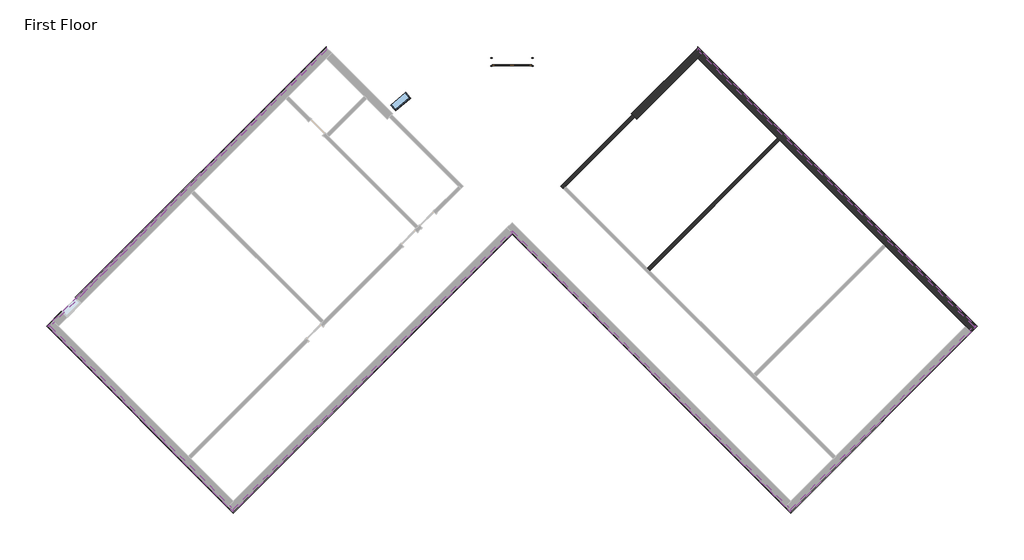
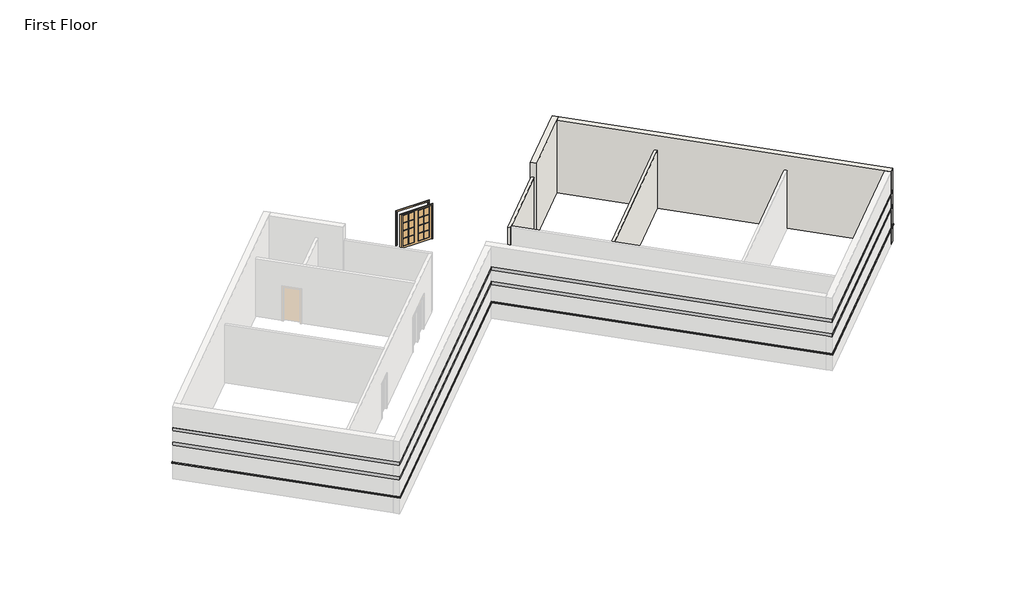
# One storey, part 2 of 2: 18 proxies, 4 walls, 1 door, 1 window.
"""IFC4 building model written with IfcOpenShell, lengths in millimetres."""

from ifc_helpers import new_model, si_unit, frame, origin, origin_with_axes, place, context, project, spatial, polyline, circle_curve, outline, extrude, faceted_brep, transform, mapped, element, save
from ifc_brep_helpers import plane_surface, cylinder_surface, revolved_surface, advanced_brep
from components import door_0a477ef8, window_15c49d37

model = new_model("IFC4")

# Units and contexts
model_context = context("Model", 3, world=origin())
ifc_project = project(units=[si_unit("LENGTHUNIT", "METRE", prefix="MILLI")], contexts=[model_context])

# Site, building, storey
site = spatial("IfcSite", under=ifc_project)
building = spatial("IfcBuilding", under=site)
storey = spatial("IfcBuildingStorey", under=building, Name="First Floor", Elevation=0.0)

# Proxies
placement = place(None, origin())
element("IfcBuildingElementProxy", 1, Name="Wall Sweeps", at=placement, inside=storey, context=model_context, shape_type="Brep", body=[
    faceted_brep([(5753.0175119, 11443.3655905, 1085.85), (5753.0175119, 11573.5793042, 1085.85), (5753.0175119, 11622.9707129, 1041.4), (5753.0175119, 11622.9707129, 1016.0), (5753.0175119, 11443.3655905, 1016.0), (18554.3726125, -1357.9895101, 1085.85), (18554.3726125, -1357.9895101, 1016.0), (18733.9777349, -1357.9895101, 1016.0), (18733.9777349, -1357.9895101, 1041.4), (18684.5863263, -1357.9895101, 1085.85), (5937.1127624, 11259.27034, 1085.85), (5937.1127624, 11259.27034, 1016.0)], [[[0, 1, 2, 3, 4]], [[5, 6, 7, 8, 9]], [[1, 0, 10, 5, 9]], [[2, 1, 9, 8]], [[3, 2, 8, 7]], [[4, 3, 7, 6, 11]], [[0, 4, 11, 6, 5, 10]]]),
])
element("IfcBuildingElementProxy", 2, Name="Wall Sweeps", at=placement, inside=storey, context=model_context, shape_type="Brep", body=[
    faceted_brep([(5753.0175119, 11573.5793042, 2336.8), (5753.0175119, 11573.5793042, 2133.6), (5753.0175119, 11443.3655905, 2133.6), (5753.0175119, 11443.3655905, 2336.8), (18684.5863263, -1357.9895101, 2336.8), (18554.3726125, -1357.9895101, 2336.8), (18554.3726125, -1357.9895101, 2133.6), (18684.5863263, -1357.9895101, 2133.6), (6002.2196193, 11324.3771969, 2336.8), (6002.2196193, 11324.3771969, 2133.6), (5937.1127624, 11259.27034, 2133.6), (5937.1127624, 11259.27034, 2336.8)], [[[0, 1, 2, 3]], [[4, 5, 6, 7]], [[1, 0, 8, 4, 7, 9]], [[2, 1, 9, 7, 6, 10]], [[3, 2, 10, 6, 5, 11]], [[0, 3, 11, 5, 4, 8]]]),
])
element("IfcBuildingElementProxy", 3, Name="Wall Sweeps", at=placement, inside=storey, context=model_context, shape_type="Brep", body=[
    faceted_brep([(5753.0175119, 11573.5793042, 3251.2), (5753.0175119, 11573.5793042, 3048.0), (5753.0175119, 11443.3655905, 3048.0), (5753.0175119, 11443.3655905, 3251.2), (18684.5863263, -1357.9895101, 3251.2), (18554.3726125, -1357.9895101, 3251.2), (18554.3726125, -1357.9895101, 3048.0), (18684.5863263, -1357.9895101, 3048.0), (6002.2196193, 11324.3771969, 3251.2), (6002.2196193, 11324.3771969, 3048.0), (5937.1127624, 11259.27034, 3048.0), (5937.1127624, 11259.27034, 3251.2)], [[[0, 1, 2, 3]], [[4, 5, 6, 7]], [[1, 0, 8, 4, 7, 9]], [[2, 1, 9, 7, 6, 10]], [[3, 2, 10, 6, 5, 11]], [[0, 3, 11, 5, 4, 8]]]),
])
element("IfcBuildingElementProxy", 4, Name="Wall Sweeps", at=placement, inside=storey, context=model_context, shape_type="Brep", body=[
    faceted_brep([(18554.3726125, -1357.9895101, 1085.85), (18684.5863263, -1357.9895101, 1085.85), (18733.9777349, -1357.9895101, 1041.4), (18733.9777349, -1357.9895101, 1016.0), (18554.3726125, -1357.9895101, 1016.0), (10063.54045, -9848.8216726, 1085.85), (10063.54045, -9848.8216726, 1016.0), (10063.54045, -10028.426795, 1016.0), (10063.54045, -10028.426795, 1041.4), (10063.54045, -9979.0353863, 1085.85), (18370.277362, -1542.0847606, 1085.85), (18370.277362, -1542.0847606, 1016.0)], [[[0, 1, 2, 3, 4]], [[5, 6, 7, 8, 9]], [[1, 0, 10, 5, 9]], [[2, 1, 9, 8]], [[3, 2, 8, 7]], [[4, 3, 7, 6, 11]], [[0, 4, 11, 6, 5, 10]]]),
])
element("IfcBuildingElementProxy", 5, Name="Wall Sweeps", at=placement, inside=storey, context=model_context, shape_type="Brep", body=[
    faceted_brep([(18684.5863263, -1357.9895101, 2336.8), (18684.5863263, -1357.9895101, 2133.6), (18554.3726125, -1357.9895101, 2133.6), (18554.3726125, -1357.9895101, 2336.8), (10063.54045, -9979.0353863, 2336.8), (10063.54045, -9848.8216726, 2336.8), (10063.54045, -9848.8216726, 2133.6), (10063.54045, -9979.0353863, 2133.6), (18435.3842189, -1607.1916175, 2336.8), (18435.3842189, -1607.1916175, 2133.6), (18370.277362, -1542.0847606, 2133.6), (18370.277362, -1542.0847606, 2336.8)], [[[0, 1, 2, 3]], [[4, 5, 6, 7]], [[1, 0, 8, 4, 7, 9]], [[2, 1, 9, 7, 6, 10]], [[3, 2, 10, 6, 5, 11]], [[0, 3, 11, 5, 4, 8]]]),
])
element("IfcBuildingElementProxy", 6, Name="Wall Sweeps", at=placement, inside=storey, context=model_context, shape_type="Brep", body=[
    faceted_brep([(18684.5863263, -1357.9895101, 3251.2), (18684.5863263, -1357.9895101, 3048.0), (18554.3726125, -1357.9895101, 3048.0), (18554.3726125, -1357.9895101, 3251.2), (10063.54045, -9979.0353863, 3251.2), (10063.54045, -9848.8216726, 3251.2), (10063.54045, -9848.8216726, 3048.0), (10063.54045, -9979.0353863, 3048.0), (18435.3842189, -1607.1916175, 3251.2), (18435.3842189, -1607.1916175, 3048.0), (18370.277362, -1542.0847606, 3048.0), (18370.277362, -1542.0847606, 3251.2)], [[[0, 1, 2, 3]], [[4, 5, 6, 7]], [[1, 0, 8, 4, 7, 9]], [[2, 1, 9, 7, 6, 10]], [[3, 2, 10, 6, 5, 11]], [[0, 3, 11, 5, 4, 8]]]),
])
element("IfcBuildingElementProxy", 7, Name="Wall Sweeps", at=placement, inside=storey, context=model_context, shape_type="Brep", body=[
    faceted_brep([(10063.54045, -9848.8216726, 1085.85), (10063.54045, -9979.0353863, 1085.85), (10063.54045, -10028.426795, 1041.4), (10063.54045, -10028.426795, 1016.0), (10063.54045, -9848.8216726, 1016.0), (-2868.0283643, 3082.7471418, 1085.85), (-2868.0283643, 3082.7471418, 1016.0), (-2868.0283643, 2903.1420194, 1016.0), (-2868.0283643, 2903.1420194, 1041.4), (-2868.0283643, 2952.533428, 1085.85), (9879.4451996, -9664.7264221, 1085.85), (9879.4451996, -9664.7264221, 1016.0)], [[[0, 1, 2, 3, 4]], [[5, 6, 7, 8, 9]], [[1, 0, 10, 5, 9]], [[2, 1, 9, 8]], [[3, 2, 8, 7]], [[4, 3, 7, 6, 11]], [[0, 4, 11, 6, 5, 10]]]),
])
element("IfcBuildingElementProxy", 8, Name="Wall Sweeps", at=placement, inside=storey, context=model_context, shape_type="Brep", body=[
    faceted_brep([(10063.54045, -9979.0353863, 2336.8), (10063.54045, -9979.0353863, 2133.6), (10063.54045, -9848.8216726, 2133.6), (10063.54045, -9848.8216726, 2336.8), (-2868.0283643, 2952.533428, 2336.8), (-2868.0283643, 3082.7471418, 2336.8), (-2868.0283643, 3082.7471418, 2133.6), (-2868.0283643, 2952.533428, 2133.6), (9814.3383427, -9729.833279, 2336.8), (9814.3383427, -9729.833279, 2133.6), (9879.4451996, -9664.7264221, 2133.6), (9879.4451996, -9664.7264221, 2336.8)], [[[0, 1, 2, 3]], [[4, 5, 6, 7]], [[1, 0, 8, 4, 7, 9]], [[2, 1, 9, 7, 6, 10]], [[3, 2, 10, 6, 5, 11]], [[0, 3, 11, 5, 4, 8]]]),
])
element("IfcBuildingElementProxy", 9, Name="Wall Sweeps", at=placement, inside=storey, context=model_context, shape_type="Brep", body=[
    faceted_brep([(10063.54045, -9979.0353863, 3251.2), (10063.54045, -9979.0353863, 3048.0), (10063.54045, -9848.8216726, 3048.0), (10063.54045, -9848.8216726, 3251.2), (-2868.0283643, 2952.533428, 3251.2), (-2868.0283643, 3082.7471418, 3251.2), (-2868.0283643, 3082.7471418, 3048.0), (-2868.0283643, 2952.533428, 3048.0), (9814.3383427, -9729.833279, 3251.2), (9814.3383427, -9729.833279, 3048.0), (9879.4451996, -9664.7264221, 3048.0), (9879.4451996, -9664.7264221, 3251.2)], [[[0, 1, 2, 3]], [[4, 5, 6, 7]], [[1, 0, 8, 4, 7, 9]], [[2, 1, 9, 7, 6, 10]], [[3, 2, 10, 6, 5, 11]], [[0, 3, 11, 5, 4, 8]]]),
])
element("IfcBuildingElementProxy", 10, Name="Wall Sweeps", at=placement, inside=storey, context=model_context, shape_type="Brep", body=[
    faceted_brep([(-2868.0283643, 3082.7471418, 1085.85), (-2868.0283643, 2952.533428, 1085.85), (-2868.0283643, 2903.1420194, 1041.4), (-2868.0283643, 2903.1420194, 1016.0), (-2868.0283643, 3082.7471418, 1016.0), (-15799.5971786, -9848.8216726, 1085.85), (-15799.5971786, -9848.8216726, 1016.0), (-15799.5971786, -10028.426795, 1016.0), (-15799.5971786, -10028.426795, 1041.4), (-15799.5971786, -9979.0353863, 1085.85), (-2933.1352212, 3017.6402849, 1085.85), (-2933.1352212, 3017.6402849, 1016.0)], [[[0, 1, 2, 3, 4]], [[5, 6, 7, 8, 9]], [[1, 0, 10, 5, 9]], [[2, 1, 9, 8]], [[3, 2, 8, 7]], [[4, 3, 7, 6, 11]], [[0, 4, 11, 6, 5, 10]]]),
])
element("IfcBuildingElementProxy", 11, Name="Wall Sweeps", at=placement, inside=storey, context=model_context, shape_type="Brep", body=[
    faceted_brep([(-2868.0283643, 2952.533428, 2336.8), (-2868.0283643, 2952.533428, 2133.6), (-2868.0283643, 3082.7471418, 2133.6), (-2868.0283643, 3082.7471418, 2336.8), (-15799.5971786, -9979.0353863, 2336.8), (-15799.5971786, -9848.8216726, 2336.8), (-15799.5971786, -9848.8216726, 2133.6), (-15799.5971786, -9979.0353863, 2133.6), (-2933.1352212, 3017.6402849, 2133.6), (-2933.1352212, 3017.6402849, 2336.8)], [[[0, 1, 2, 3]], [[4, 5, 6, 7]], [[1, 0, 4, 7]], [[2, 1, 7, 6, 8]], [[3, 2, 8, 6, 5, 9]], [[0, 3, 9, 5, 4]]]),
])
element("IfcBuildingElementProxy", 12, Name="Wall Sweeps", at=placement, inside=storey, context=model_context, shape_type="Brep", body=[
    faceted_brep([(-2868.0283643, 2952.533428, 3251.2), (-2868.0283643, 2952.533428, 3048.0), (-2868.0283643, 3082.7471418, 3048.0), (-2868.0283643, 3082.7471418, 3251.2), (-15799.5971786, -9979.0353863, 3251.2), (-15799.5971786, -9848.8216726, 3251.2), (-15799.5971786, -9848.8216726, 3048.0), (-15799.5971786, -9979.0353863, 3048.0), (-2933.1352212, 3017.6402849, 3048.0), (-2933.1352212, 3017.6402849, 3251.2)], [[[0, 1, 2, 3]], [[4, 5, 6, 7]], [[1, 0, 4, 7]], [[2, 1, 7, 6, 8]], [[3, 2, 8, 6, 5, 9]], [[0, 3, 9, 5, 4]]]),
])
element("IfcBuildingElementProxy", 13, Name="Wall Sweeps", at=placement, inside=storey, context=model_context, shape_type="Brep", body=[
    faceted_brep([(-24290.4293411, -1357.9895101, 1085.85), (-24420.6430549, -1357.9895101, 1085.85), (-24470.0344635, -1357.9895101, 1041.4), (-24470.0344635, -1357.9895101, 1016.0), (-24290.4293411, -1357.9895101, 1016.0), (-23692.119777, -759.679946, 1085.85), (-23692.119777, -759.679946, 1016.0), (-23757.2266339, -694.5730891, 1016.0), (-23781.9223383, -669.8773848, 1016.0), (-23781.9223383, -669.8773848, 1041.4), (-23757.2266339, -694.5730891, 1085.85), (-24106.3340906, -1173.8942596, 1085.85), (-24106.3340906, -1173.8942596, 1016.0)], [[[0, 1, 2, 3, 4]], [[5, 6, 7, 8, 9, 10]], [[1, 0, 11, 5, 10]], [[2, 1, 10, 9]], [[3, 2, 9, 8]], [[4, 3, 8, 7, 6, 12]], [[0, 4, 12, 6, 5, 11]]]),
    faceted_brep([(-23045.5413363, -113.1015053, 1085.85), (-23110.6481932, -47.9946484, 1085.85), (-23135.3438975, -23.2989441, 1041.4), (-23135.3438975, -23.2989441, 1016.0), (-23110.6481932, -47.9946484, 1016.0), (-23045.5413363, -113.1015053, 1016.0), (-11489.0742405, 11443.3655905, 1085.85), (-11489.0742405, 11443.3655905, 1016.0), (-11489.0742405, 11622.9707129, 1016.0), (-11489.0742405, 11622.9707129, 1041.4), (-11489.0742405, 11573.5793042, 1085.85)], [[[0, 1, 2, 3, 4, 5]], [[6, 7, 8, 9, 10]], [[1, 0, 6, 10]], [[2, 1, 10, 9]], [[3, 2, 9, 8]], [[5, 4, 3, 8, 7]], [[0, 5, 7, 6]]]),
])
element("IfcBuildingElementProxy", 14, Name="Wall Sweeps", at=placement, inside=storey, context=model_context, shape_type="Brep", body=[
    faceted_brep([(-24420.6430549, -1357.9895101, 2336.8), (-24420.6430549, -1357.9895101, 2133.6), (-24290.4293411, -1357.9895101, 2133.6), (-24290.4293411, -1357.9895101, 2336.8), (-23757.2266339, -694.5730891, 2336.8), (-23692.119777, -759.679946, 2336.8), (-23692.119777, -759.679946, 2133.6), (-23757.2266339, -694.5730891, 2133.6), (-24171.4409475, -1108.7874027, 2336.8), (-24171.4409475, -1108.7874027, 2133.6), (-24106.3340906, -1173.8942596, 2133.6), (-24106.3340906, -1173.8942596, 2336.8)], [[[0, 1, 2, 3]], [[4, 5, 6, 7]], [[1, 0, 8, 4, 7, 9]], [[2, 1, 9, 7, 6, 10]], [[3, 2, 10, 6, 5, 11]], [[0, 3, 11, 5, 4, 8]]]),
    faceted_brep([(-23110.6481932, -47.9946484, 2336.8), (-23110.6481932, -47.9946484, 2133.6), (-23045.5413363, -113.1015053, 2133.6), (-23045.5413363, -113.1015053, 2336.8), (-11489.0742405, 11573.5793042, 2336.8), (-11489.0742405, 11443.3655905, 2336.8), (-11489.0742405, 11443.3655905, 2133.6), (-11489.0742405, 11573.5793042, 2133.6)], [[[0, 1, 2, 3]], [[4, 5, 6, 7]], [[1, 0, 4, 7]], [[2, 1, 7, 6]], [[3, 2, 6, 5]], [[0, 3, 5, 4]]]),
])
element("IfcBuildingElementProxy", 15, Name="Wall Sweeps", at=placement, inside=storey, context=model_context, shape_type="Brep", body=[
    faceted_brep([(-24420.6430549, -1357.9895101, 3251.2), (-24420.6430549, -1357.9895101, 3048.0), (-24290.4293411, -1357.9895101, 3048.0), (-24290.4293411, -1357.9895101, 3251.2), (-11489.0742405, 11573.5793042, 3251.2), (-11489.0742405, 11443.3655905, 3251.2), (-11489.0742405, 11443.3655905, 3048.0), (-11489.0742405, 11573.5793042, 3048.0), (-24171.4409475, -1108.7874027, 3251.2), (-24171.4409475, -1108.7874027, 3048.0), (-24106.3340906, -1173.8942596, 3048.0), (-24106.3340906, -1173.8942596, 3251.2)], [[[0, 1, 2, 3]], [[4, 5, 6, 7]], [[1, 0, 8, 4, 7, 9]], [[2, 1, 9, 7, 6, 10]], [[3, 2, 10, 6, 5, 11]], [[0, 3, 11, 5, 4, 8]]]),
])
element("IfcBuildingElementProxy", 16, Name="Wall Sweeps", at=placement, inside=storey, context=model_context, shape_type="Brep", body=[
    faceted_brep([(-15799.5971786, -9848.8216726, 1085.85), (-15799.5971786, -9979.0353863, 1085.85), (-15799.5971786, -10028.426795, 1041.4), (-15799.5971786, -10028.426795, 1016.0), (-15799.5971786, -9848.8216726, 1016.0), (-24290.4293411, -1357.9895101, 1085.85), (-24290.4293411, -1357.9895101, 1016.0), (-24470.0344635, -1357.9895101, 1016.0), (-24470.0344635, -1357.9895101, 1041.4), (-24420.6430549, -1357.9895101, 1085.85), (-15983.6924291, -9664.7264221, 1085.85), (-15983.6924291, -9664.7264221, 1016.0)], [[[0, 1, 2, 3, 4]], [[5, 6, 7, 8, 9]], [[1, 0, 10, 5, 9]], [[2, 1, 9, 8]], [[3, 2, 8, 7]], [[4, 3, 7, 6, 11]], [[0, 4, 11, 6, 5, 10]]]),
])
element("IfcBuildingElementProxy", 17, Name="Wall Sweeps", at=placement, inside=storey, context=model_context, shape_type="Brep", body=[
    faceted_brep([(-15799.5971786, -9979.0353863, 2336.8), (-15799.5971786, -9979.0353863, 2133.6), (-15799.5971786, -9848.8216726, 2133.6), (-15799.5971786, -9848.8216726, 2336.8), (-24420.6430549, -1357.9895101, 2336.8), (-24290.4293411, -1357.9895101, 2336.8), (-24290.4293411, -1357.9895101, 2133.6), (-24420.6430549, -1357.9895101, 2133.6), (-16048.799286, -9729.833279, 2336.8), (-16048.799286, -9729.833279, 2133.6), (-15983.6924291, -9664.7264221, 2133.6), (-15983.6924291, -9664.7264221, 2336.8)], [[[0, 1, 2, 3]], [[4, 5, 6, 7]], [[1, 0, 8, 4, 7, 9]], [[2, 1, 9, 7, 6, 10]], [[3, 2, 10, 6, 5, 11]], [[0, 3, 11, 5, 4, 8]]]),
])
element("IfcBuildingElementProxy", 18, Name="Wall Sweeps", at=placement, inside=storey, context=model_context, shape_type="Brep", body=[
    faceted_brep([(-15799.5971786, -9979.0353863, 3251.2), (-15799.5971786, -9979.0353863, 3048.0), (-15799.5971786, -9848.8216726, 3048.0), (-15799.5971786, -9848.8216726, 3251.2), (-24420.6430549, -1357.9895101, 3251.2), (-24290.4293411, -1357.9895101, 3251.2), (-24290.4293411, -1357.9895101, 3048.0), (-24420.6430549, -1357.9895101, 3048.0), (-16048.799286, -9729.833279, 3251.2), (-16048.799286, -9729.833279, 3048.0), (-15983.6924291, -9664.7264221, 3048.0), (-15983.6924291, -9664.7264221, 3251.2)], [[[0, 1, 2, 3]], [[4, 5, 6, 7]], [[1, 0, 8, 4, 7, 9]], [[2, 1, 9, 7, 6, 10]], [[3, 2, 10, 6, 5, 11]], [[0, 3, 11, 5, 4, 8]]]),
])

# Door
door_shape = door_0a477ef8(model_context)
element("IfcDoor", 19, ObjectType="Double-Glass 2 : 72\" x 84\"", at=placement, inside=storey, context=model_context, shape_type="MappedRepresentation", body=[
    mapped(door_shape, transform((-2868.7603243, 10905.5717204, 0.0), x_axis=(-0.9999999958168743, -9.146721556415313e-05, 0.0), y_axis=(9.146721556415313e-05, -0.9999999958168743, 0.0), z_axis=(0.0, 0.0, 1.0))),
])

# Walls
element("IfcWall", 20, ObjectType="Exterior - Split Face and CMU on Mtl. Stud", at=placement, inside=storey, context=model_context, shape_type="AdvancedBrep", body=[
    advanced_brep(
    [(2921.9555443, 8244.1131219, 0.0), (5753.0175119, 11075.1750895, 0.0), (6002.2196193, 11324.3771969, 0.0), (6002.2196193, 11324.3771969, 1016.0), (5937.1127624, 11259.27034, 1016.0), (5937.1127624, 11259.27034, 1085.85), (6002.2196193, 11324.3771969, 1085.85), (6002.2196193, 11324.3771969, 2133.6), (5937.1127624, 11259.27034, 2133.6), (5937.1127624, 11259.27034, 2336.8), (6002.2196193, 11324.3771969, 2336.8), (6002.2196193, 11324.3771969, 3048.0), (5937.1127624, 11259.27034, 3048.0), (5937.1127624, 11259.27034, 3251.2), (6002.2196193, 11324.3771969, 3251.2), (6002.2196193, 11324.3771969, 4572.0), (5753.0175119, 11075.1750895, 4572.0), (2921.9555443, 8244.1131219, 4572.0), (2677.2250436, 8497.7868359, 4572.0), (2926.4294954, 8746.9912878, 4572.0), (5753.0175119, 11573.5793042, 4572.0), (5753.0175119, 11573.5793042, 3251.2), (2926.4294954, 8746.9912878, 3251.2), (2861.3220456, 8681.8838379, 3251.2), (2861.3220456, 8681.8838379, 3048.0), (2926.4294954, 8746.9912878, 3048.0), (5753.0175119, 11573.5793042, 3048.0), (5753.0175119, 11573.5793042, 2336.8), (2926.4294954, 8746.9912878, 2336.8), (2861.3220456, 8681.8838379, 2336.8), (2861.3220456, 8681.8838379, 2133.6), (2926.4294954, 8746.9912878, 2133.6), (5753.0175119, 11573.5793042, 2133.6), (5753.0175119, 11573.5793042, 1085.85), (2926.4294954, 8746.9912878, 1085.85), (2861.3220456, 8681.8838379, 1085.85), (2861.3220456, 8681.8838379, 1016.0), (2926.4294954, 8746.9912878, 1016.0), (5753.0175119, 11573.5793042, 1016.0), (5753.0175119, 11573.5793042, 0.0), (2926.4294954, 8746.9912878, 0.0), (2677.2250436, 8497.7868359, 0.0), (5818.1243688, 11508.4724474, 0.0), (2712.9544089, 8462.1452813, 0.0), (2742.2400511, 8432.5881297, 0.0), (2821.6568654, 8350.8358404, 0.0), (5753.0175119, 11443.3655905, 1085.85), (2926.3399919, 8616.6880705, 1085.85), (2926.3399919, 8616.6880705, 1016.0), (5753.0175119, 11443.3655905, 1016.0), (2926.3399919, 8616.6880705, 2133.6), (5753.0175119, 11443.3655905, 2133.6), (2926.3399919, 8616.6880705, 2336.8), (5753.0175119, 11443.3655905, 2336.8), (2926.3399919, 8616.6880705, 3048.0), (5753.0175119, 11443.3655905, 3048.0), (2926.3399919, 8616.6880705, 3251.2), (5753.0175119, 11443.3655905, 3251.2)],
    [
        (0, 1),
        (1, 2),
        (2, 3),
        (3, 4),
        (4, 5),
        (5, 6),
        (6, 7),
        (7, 8),
        (8, 9),
        (9, 10),
        (10, 11),
        (11, 12),
        (12, 13),
        (13, 14),
        (14, 15),
        (15, 16),
        (16, 17),
        (17, 0),
        (18, 19),
        (19, 20),
        (20, 21),
        (21, 22),
        (22, 23),
        (23, 24),
        (24, 25),
        (25, 26),
        (26, 27),
        (27, 28),
        (28, 29),
        (29, 30),
        (30, 31),
        (31, 32),
        (32, 33),
        (33, 34),
        (34, 35),
        (35, 36),
        (36, 37),
        (37, 38),
        (38, 39),
        (39, 40),
        (40, 41),
        (41, 18),
        (15, 20),
        (18, 17, circle_curve(frame((-2868.0283643, 2903.1420194, 4572.0), z_axis=(0.0, 0.0, -1.0), x_axis=(1.0, 0.0, 0.0)), 7877.175)),
        (14, 21),
        (2, 42),
        (42, 39),
        (38, 3),
        (6, 33),
        (32, 7),
        (10, 27),
        (26, 11),
        (41, 43, circle_curve(frame((-2868.0283643, 2903.1420194, 0.0), z_axis=(0.0, 0.0, -1.0), x_axis=(1.0, 0.0, 0.0)), 7877.175)),
        (43, 44, circle_curve(frame((-2868.0283643, 2903.1420194, 0.0), z_axis=(0.0, 0.0, -1.0), x_axis=(1.0, 0.0, 0.0)), 7877.175)),
        (44, 45, circle_curve(frame((-2868.0283643, 2903.1420194, 0.0), z_axis=(0.0, 0.0, -1.0), x_axis=(1.0, 0.0, 0.0)), 7877.175)),
        (45, 0, circle_curve(frame((-2868.0283643, 2903.1420194, 0.0), z_axis=(0.0, 0.0, -1.0), x_axis=(1.0, 0.0, 0.0)), 7877.175)),
        (44, 42),
        (46, 47),
        (47, 35, circle_curve(frame((-2868.0283643, 2903.1420194, 1085.85), z_axis=(0.0, 0.0, 1.0), x_axis=(0.6844196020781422, 0.7290883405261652, 0.0)), 8137.525)),
        (5, 46),
        (48, 49),
        (49, 4),
        (36, 48, circle_curve(frame((-2868.0283643, 2903.1420194, 1016.0), z_axis=(0.0, 0.0, -1.0), x_axis=(0.6844196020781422, 0.7290883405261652, 0.0)), 8137.525)),
        (47, 48),
        (46, 49),
        (50, 51),
        (51, 8),
        (30, 50, circle_curve(frame((-2868.0283643, 2903.1420194, 2133.6), z_axis=(0.0, 0.0, -1.0), x_axis=(0.6844196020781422, 0.7290883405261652, 0.0)), 8137.525)),
        (52, 50),
        (29, 52, circle_curve(frame((-2868.0283643, 2903.1420194, 2336.8), z_axis=(0.0, 0.0, -1.0), x_axis=(0.6844196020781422, 0.7290883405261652, 0.0)), 8137.525)),
        (53, 52),
        (9, 53),
        (53, 51),
        (54, 55),
        (55, 12),
        (24, 54, circle_curve(frame((-2868.0283643, 2903.1420194, 3048.0), z_axis=(0.0, 0.0, -1.0), x_axis=(-0.7040995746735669, 0.7101012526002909, 0.0)), 8137.525)),
        (56, 54),
        (23, 56, circle_curve(frame((-2868.0283643, 2903.1420194, 3251.2), z_axis=(0.0, 0.0, -1.0), x_axis=(-0.7040995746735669, 0.7101012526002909, 0.0)), 8137.525)),
        (57, 56),
        (13, 57),
        (57, 55),
    ],
    [
        plane_surface(frame((2984.8535626, 8307.0111402, 0.0), z_axis=(0.707106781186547, -0.7071067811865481, 0.0), x_axis=(0.7071067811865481, 0.707106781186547, 0.0))),
        plane_surface(frame((2735.6514552, 8556.2132476, 0.0), z_axis=(-0.707106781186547, 0.7071067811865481, 0.0), x_axis=(-0.7071067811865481, -0.707106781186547, 0.0))),
        plane_surface(frame((5877.6185656, 11199.7761432, 4572.0), z_axis=(0.0, 0.0, 1.0), x_axis=(-0.707106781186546, 0.7071067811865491, 0.0))),
        plane_surface(frame((5753.0175119, 11573.5793042, 0.0), z_axis=(0.7071067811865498, 0.7071067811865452, 0.0), x_axis=(-0.7071067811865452, 0.7071067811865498, 0.0))),
        revolved_surface(polyline([(5009.146635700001, 2903.1420194, 0.0), (5009.146635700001, 2903.1420194, 4572.0)]), (-2868.0283643, 2903.1420194, 0.0), (0.0, 0.0, -1.0)),
        plane_surface(frame((3050.2065213, 8372.3640989, 0.0), z_axis=(0.0, 0.0, -1.0000000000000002), x_axis=(-0.7071067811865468, 0.7071067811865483, 0.0))),
        plane_surface(frame((0.0, 0.0, 0.0), z_axis=(0.0, 0.0, -1.0), x_axis=(1.0, 0.0, 0.0))),
        plane_surface(frame((-2868.0283643, 2903.1420194, 1085.85), z_axis=(0.0, 0.0, -1.0), x_axis=(0.6844196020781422, 0.7290883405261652, 0.0))),
        plane_surface(frame((-2868.0283643, 2903.1420194, 1016.0), z_axis=(0.0, 0.0, 1.0), x_axis=(0.6844196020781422, 0.7290883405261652, 0.0))),
        cylinder_surface(frame((-2868.0283643, 2903.1420194, 1016.0), z_axis=(0.0, 0.0, -1.0), x_axis=(0.6844196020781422, 0.7290883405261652, 0.0)), 8137.525),
        plane_surface(frame((2926.3399919, 8616.6880705, 1016.0), z_axis=(-0.7071067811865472, 0.7071067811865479, 0.0), x_axis=(0.7071067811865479, 0.7071067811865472, 0.0))),
        plane_surface(frame((5753.0175119, 11443.3655905, 1016.0), z_axis=(0.7071067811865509, 0.7071067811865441, 0.0), x_axis=(0.7071067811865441, -0.7071067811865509, 0.0))),
        plane_surface(frame((-2868.0283643, 2903.1420194, 2133.6), z_axis=(0.0, 0.0, 1.0), x_axis=(0.6844196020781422, 0.7290883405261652, 0.0))),
        cylinder_surface(frame((-2868.0283643, 2903.1420194, 2133.6), z_axis=(0.0, 0.0, -1.0), x_axis=(0.6844196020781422, 0.7290883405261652, 0.0)), 8137.525),
        plane_surface(frame((-2868.0283643, 2903.1420194, 2336.8), z_axis=(0.0, 0.0, -1.0), x_axis=(0.6844196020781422, 0.7290883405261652, 0.0))),
        plane_surface(frame((2926.3399919, 8616.6880705, 2133.6), z_axis=(-0.7071067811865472, 0.7071067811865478, 0.0), x_axis=(0.7071067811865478, 0.7071067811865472, 0.0))),
        plane_surface(frame((5753.0175119, 11443.3655905, 2133.6), z_axis=(0.7071067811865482, 0.7071067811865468, 0.0), x_axis=(0.7071067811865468, -0.7071067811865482, 0.0))),
        plane_surface(frame((-2868.0283643, 2903.1420194, 3048.0), z_axis=(0.0, 0.0, 1.0), x_axis=(-0.7040995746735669, 0.7101012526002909, 0.0))),
        cylinder_surface(frame((-2868.0283643, 2903.1420194, 3048.0), z_axis=(0.0, 0.0, -1.0), x_axis=(-0.7040995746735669, 0.7101012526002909, 0.0)), 8137.525),
        plane_surface(frame((-2868.0283643, 2903.1420194, 3251.2), z_axis=(0.0, 0.0, -1.0), x_axis=(-0.7040995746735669, 0.7101012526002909, 0.0))),
        plane_surface(frame((2926.3399919, 8616.6880705, 3048.0), z_axis=(-0.7071067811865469, 0.7071067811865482, 0.0), x_axis=(0.7071067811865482, 0.7071067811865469, 0.0))),
        plane_surface(frame((5753.0175119, 11443.3655905, 3048.0), z_axis=(0.7071067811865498, 0.7071067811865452, 0.0), x_axis=(0.7071067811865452, -0.7071067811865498, 0.0))),
    ],
    [
        (0, [[1, 2, 3, 4, 5, 6, 7, 8, 9, 10, 11, 12, 13, 14, 15, 16, 17, 18]]),
        (1, [[19, 20, 21, 22, 23, 24, 25, 26, 27, 28, 29, 30, 31, 32, 33, 34, 35, 36, 37, 38, 39, 40, 41, 42]]),
        (2, [[-17, -16, 43, -20, -19, 44]]),
        (3, [[-43, -15, 45, -21]]),
        (3, [[46, 47, -39, 48, -3]]),
        (3, [[49, -33, 50, -7]]),
        (3, [[51, -27, 52, -11]]),
        (4, [[-44, -42, 53, 54, 55, 56, -18]]),
        (5, [[-2, -1, -56, -55, 57, -46]]),
        (6, [[-54, -53, -41, -40, -47, -57]]),
        (7, [[58, 59, -35, -34, -49, -6, 60]]),
        (8, [[61, 62, -4, -48, -38, -37, 63]]),
        (9, [[64, -63, -36, -59]]),
        (10, [[-58, 65, -61, -64]]),
        (11, [[-65, -60, -5, -62]]),
        (12, [[66, 67, -8, -50, -32, -31, 68]]),
        (13, [[69, -68, -30, 70]]),
        (14, [[71, -70, -29, -28, -51, -10, 72]]),
        (15, [[-66, -69, -71, 73]]),
        (16, [[-73, -72, -9, -67]]),
        (17, [[74, 75, -12, -52, -26, -25, 76]]),
        (18, [[77, -76, -24, 78]]),
        (19, [[79, -78, -23, -22, -45, -14, 80]]),
        (20, [[-74, -77, -79, 81]]),
        (21, [[-81, -80, -13, -75]]),
    ],
),
])
element("IfcWall", 21, ObjectType="Exterior - Split Face and CMU on Mtl. Stud", at=placement, inside=storey, context=model_context, shape_type="Brep", body=[
    faceted_brep([(5753.0175119, 11075.1750895, 4572.0), (18186.1821115, -1357.9895101, 4572.0), (18435.3842189, -1607.1916175, 4572.0), (18684.5863263, -1357.9895101, 4572.0), (6002.2196193, 11324.3771969, 4572.0), (5753.0175119, 11075.1750895, 0.0), (9452.8830338, 7375.3095676, 0.0), (9562.8911713, 7265.3014302, 0.0), (14376.3084522, 2451.8841493, 0.0), (14486.3165897, 2341.8760118, 0.0), (18186.1821115, -1357.9895101, 0.0), (18435.3842189, -1607.1916175, 0.0), (18435.3842189, -1607.1916175, 1016.0), (18370.277362, -1542.0847606, 1016.0), (18370.277362, -1542.0847606, 1085.85), (18435.3842189, -1607.1916175, 1085.85), (18435.3842189, -1607.1916175, 2133.6), (18370.277362, -1542.0847606, 2133.6), (18370.277362, -1542.0847606, 2336.8), (18435.3842189, -1607.1916175, 2336.8), (18435.3842189, -1607.1916175, 3048.0), (18370.277362, -1542.0847606, 3048.0), (18370.277362, -1542.0847606, 3251.2), (18435.3842189, -1607.1916175, 3251.2), (18684.5863263, -1357.9895101, 3251.2), (6002.2196193, 11324.3771969, 3251.2), (18684.5863263, -1357.9895101, 0.0), (6002.2196193, 11324.3771969, 0.0), (6002.2196193, 11324.3771969, 1016.0), (18684.5863263, -1357.9895101, 1016.0), (18684.5863263, -1357.9895101, 1085.85), (6002.2196193, 11324.3771969, 1085.85), (6002.2196193, 11324.3771969, 2133.6), (18684.5863263, -1357.9895101, 2133.6), (18684.5863263, -1357.9895101, 2336.8), (6002.2196193, 11324.3771969, 2336.8), (6002.2196193, 11324.3771969, 3048.0), (18684.5863263, -1357.9895101, 3048.0), (5937.1127624, 11259.27034, 0.0), (18619.4794694, -1423.096367, 0.0), (5937.1127624, 11259.27034, 3251.2), (5937.1127624, 11259.27034, 3048.0), (5937.1127624, 11259.27034, 2336.8), (5937.1127624, 11259.27034, 2133.6), (5937.1127624, 11259.27034, 1085.85), (5937.1127624, 11259.27034, 1016.0), (18554.3726125, -1357.9895101, 1085.85), (18554.3726125, -1357.9895101, 1016.0), (18554.3726125, -1357.9895101, 2133.6), (18554.3726125, -1357.9895101, 2336.8), (18554.3726125, -1357.9895101, 3048.0), (18554.3726125, -1357.9895101, 3251.2)], [[[0, 1, 2, 3, 4]], [[5, 6, 7, 8, 9, 10, 11, 12, 13, 14, 15, 16, 17, 18, 19, 20, 21, 22, 23, 2, 1, 0]], [[4, 3, 24, 25]], [[26, 27, 28, 29]], [[30, 31, 32, 33]], [[34, 35, 36, 37]], [[11, 10, 9, 8, 7, 6, 5, 38, 39]], [[5, 0, 4, 25, 40, 41, 36, 35, 42, 43, 32, 31, 44, 45, 28, 27, 38]], [[27, 26, 39, 38]], [[3, 2, 23, 24]], [[11, 39, 26, 29, 12]], [[15, 30, 33, 16]], [[19, 34, 37, 20]], [[14, 46, 44, 31, 30, 15]], [[45, 47, 13, 12, 29, 28]], [[46, 47, 45, 44]], [[47, 46, 14, 13]], [[43, 48, 17, 16, 33, 32]], [[18, 49, 42, 35, 34, 19]], [[49, 48, 43, 42]], [[48, 49, 18, 17]], [[41, 50, 21, 20, 37, 36]], [[22, 51, 40, 25, 24, 23]], [[51, 50, 41, 40]], [[50, 51, 22, 21]]]),
])
element("IfcWall", 22, ObjectType="Interior - 6 1/8\" Partition (2-hr)", at=placement, inside=storey, context=model_context, shape_type="AdvancedBrep", body=[
    advanced_brep(
    [(-497.4763129, 5031.6982846, 0.0), (-387.4681754, 5141.7064221, 0.0), (2821.6590066, 8350.8336041, 0.0), (2821.6590066, 8350.8336041, 3657.6), (-387.4681754, 5141.7064221, 3657.6), (-497.4763129, 5031.6982846, 3657.6), (-607.4844504, 5141.7064221, 0.0), (-607.4844504, 5141.7064221, 3657.6), (2712.9544089, 8462.1452813, 3657.6), (2712.9544089, 8462.1452813, 0.0)],
    [
        (0, 1),
        (1, 2),
        (2, 3),
        (3, 4),
        (4, 5),
        (5, 0),
        (6, 7),
        (7, 8),
        (8, 9),
        (9, 6),
        (0, 6),
        (9, 2, circle_curve(frame((-2868.0283643, 2903.1420194, 0.0), z_axis=(0.0, 0.0, -1.0), x_axis=(1.0, 0.0, 0.0)), 7877.175)),
        (3, 8, circle_curve(frame((-2868.0283643, 2903.1420194, 3657.6), z_axis=(0.0, 0.0, 1.0), x_axis=(1.0, 0.0, 0.0)), 7877.175)),
        (7, 5),
    ],
    [
        plane_surface(frame((-442.4722441, 5086.7023533, 0.0), z_axis=(0.7071067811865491, -0.7071067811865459, 0.0), x_axis=(0.7071067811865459, 0.7071067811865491, 0.0))),
        plane_surface(frame((-552.4803816, 5196.7104908, 0.0), z_axis=(-0.7071067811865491, 0.7071067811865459, 0.0), x_axis=(-0.7071067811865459, -0.7071067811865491, 0.0))),
        plane_surface(frame((-442.4722441, 5086.7023533, 0.0), z_axis=(0.0, 0.0, -1.0), x_axis=(-0.707106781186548, 0.7071067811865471, 0.0))),
        plane_surface(frame((2947.192033, 8476.3666305, 3657.6), z_axis=(0.0, 0.0, 1.0000000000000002), x_axis=(-0.7071067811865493, 0.7071067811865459, 0.0))),
        plane_surface(frame((12163.7978503, -7629.5758786, 0.0), z_axis=(-0.7071067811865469, -0.7071067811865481, 0.0), x_axis=(0.7071067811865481, -0.7071067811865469, 0.0))),
        cylinder_surface(frame((-2868.0283643, 2903.1420194, 0.0), z_axis=(0.0, 0.0, -1.0), x_axis=(1.0, 0.0, 0.0)), 7877.175),
    ],
    [
        (0, [[1, 2, 3, 4, 5, 6]]),
        (1, [[7, 8, 9, 10]]),
        (2, [[-2, -1, 11, -10, 12]]),
        (3, [[-5, -4, 13, -8, 14]]),
        (4, [[-6, -14, -7, -11]]),
        (5, [[-3, -12, -9, -13]]),
    ],
),
])
element("IfcWall", 23, ObjectType="Interior - 6 1/8\" Partition (2-hr)", at=placement, inside=storey, context=model_context, shape_type="SweptSolid", body=[
    extrude(outline(polyline([(3415.9058564, 1338.3323903), (9452.8830338, 7375.3095676), (9562.8911713, 7265.3014302), (3525.9139939, 1228.3242528), (3415.9058564, 1338.3323903)])), origin_with_axes(), (0.0, 0.0, 1.0), 3657.6),
])

# Window
window_shape = window_15c49d37(model_context)
element("IfcWindow", 24, ObjectType="Fixed : 36\" x 48\"", at=placement, inside=storey, context=model_context, shape_type="MappedRepresentation", body=[
    mapped(window_shape, transform((-8066.2237793, 9037.6928325, 0.0), x_axis=(-0.7659856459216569, -0.6428576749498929, 0.0), y_axis=(0.6428576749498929, -0.7659856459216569, 0.0), z_axis=(0.0, 0.0, 1.0))),
])

save(model, "model.ifc")
